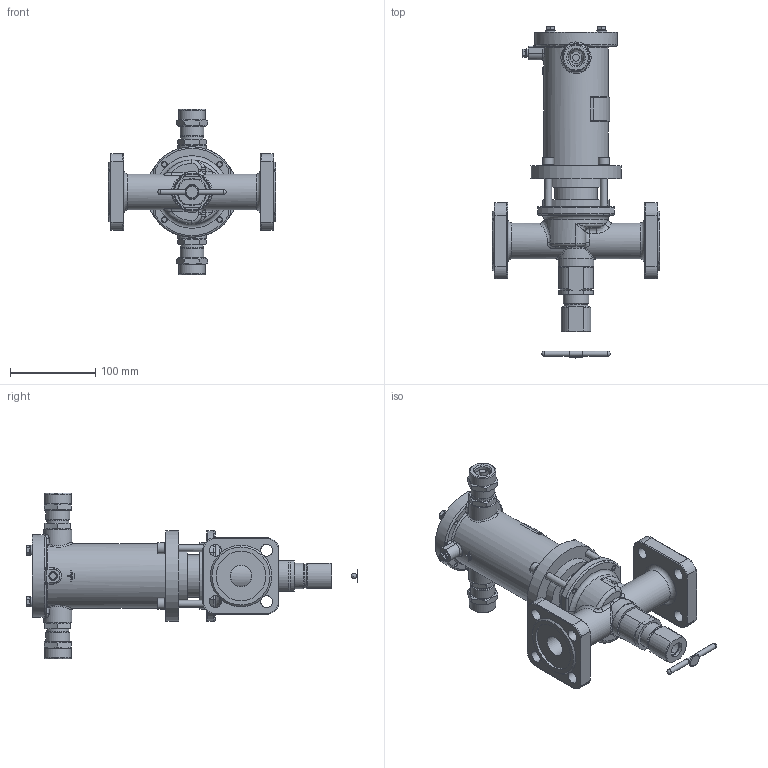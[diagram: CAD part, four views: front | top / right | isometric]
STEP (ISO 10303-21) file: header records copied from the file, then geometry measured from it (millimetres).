
FILE_DESCRIPTION(('STEP AP203'), '1');
FILE_NAME('ÑÅÍÑ DN25PN25-Â.stp', '2018-09-19T08:43:50', ('Îðëîâ Å.Â.'), ('ÎÎÎ ÍÏÏ Ñåíñîð'), 'ASCON STEP Converter 1.3', 'Kompas 3D', '');
FILE_SCHEMA(('CONFIG_CONTROL_DESIGN','SUPPORT_RESOURCE_SCHEMA'));
Length unit declared in the file: millimetre
Products named in the file (1): 44
Bounding box: 196 x 388.7 x 194 mm (x, y, z)
Volume: 402804 mm3; surface area: 320295.5 mm2
Topology: 18 solids, 19 shells, 1987 faces, 5256 edges, 3409 vertices
Faces by surface type: cylinder 1012, plane 725, cone 125, torus 57, bspline 50, extrusion 16, sphere 2
Full cylindrical faces by diameter (mm): 3.5 x2, 4.134 x1, 4.917 x4, 5 x1, 6 x15, 6.5 x4, 6.647 x4, 8 x8, 8.2 x1, 9 x4, 10 x1, 11 x1, 12 x4, 13 x6, 14 x8, 16 x3, 17 x2, 18 x1, 18.632 x2, 19.9 x1, 20 x3, 22 x2, 22.376 x2, 23 x1, 23.5 x2, 24 x2, 24.5 x2, 25 x2, 26 x4, 26.376 x2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
Entity records: 77027 total; most frequent: CARTESIAN_POINT 26671, DIRECTION 10905, ORIENTED_EDGE 10467, EDGE_CURVE 5235, AXIS2_PLACEMENT_3D 4202, VERTEX_POINT 3409, VECTOR 2501, LINE 2485
